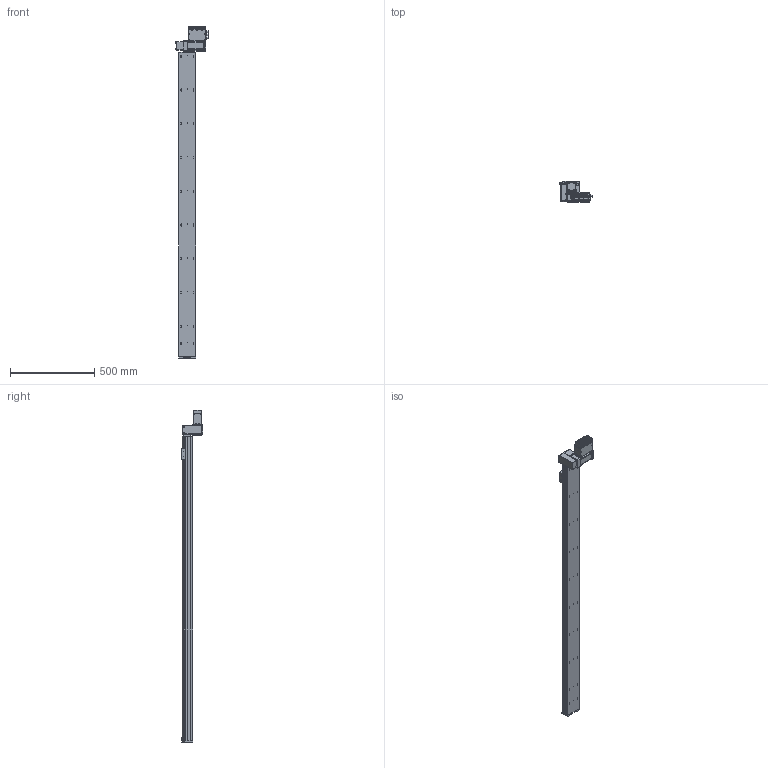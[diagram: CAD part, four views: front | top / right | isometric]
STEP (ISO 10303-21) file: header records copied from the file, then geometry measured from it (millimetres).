
FILE_DESCRIPTION (( 'STEP AP203' ), '1' );
FILE_NAME ('S10 TBN RH S1900.STEP', '2012-06-14T08:54:04', ( 'Conseil Régional Haute-Normandie' ), ( 'Conseil Régional Haute-Normandie' ), 'SwSTEP 2.0', 'SolidWorks 2010', '' );
FILE_SCHEMA (( 'CONFIG_CONTROL_DESIGN' ));
Products named in the file (30): renvoi LH_Default; Plaque racord_Default; Colonnette_3; BU45 Carte d''axe A11_5; Connecteur rond D12 4cts_5; Sub D 9cts 90_X2_00B_X0__3; Radiateur profil_X2_00E9_X0_ 100x25_3; vis M5 L12_Default; Cvis M5 L30_Default; axe 1800; S10 TBN RH S1900; embout; palette tbn; cache t皻e axe_Default; plaque de bout s10_Default; cache t皻e_Default; Assem1_7; T_X2_00F4_X0_le contre le moteur_5; BU41 Carte Alimentation P05_3; Moteur 60BLDC90A_3; Couvercle_3; T_X2_00F4_X0_le fond_3; Connecteur rond D10 3cts_5; Colonnette ronde_3; T_X2_00F4_X0_le Arri_X2_00E8_X0_re_5; T_X2_00F4_X0_le lat_X2_00E9_X0_rale_5; Vis TF 3 torkx_1_1; Vis M5 L16-2_Default_1; Vis TF 3 torkx; vis M5 L5_Default
Assembly tree (69 placements, depth 3):
  S10 TBN RH S1900
    palette tbn
    vis M5 L12_Default  x4
    Vis TF 3 torkx  x7
    Assem1_7
      Vis TF 3 torkx_1_1  x21
      BU41 Carte Alimentation P05_3
      Connecteur rond D10 3cts_5  x2
      T_X2_00F4_X0_le lat_X2_00E9_X0_rale_5  x2
      Connecteur rond D12 4cts_5
      Radiateur profil_X2_00E9_X0_ 100x25_3
      Couvercle_3
      T_X2_00F4_X0_le contre le moteur_5
      Moteur 60BLDC90A_3
      Colonnette_3  x2
      T_X2_00F4_X0_le fond_3
      T_X2_00F4_X0_le Arri_X2_00E8_X0_re_5
      Colonnette ronde_3
      BU45 Carte d''axe A11_5
      Sub D 9cts 90_X2_00B_X0__3
    vis M5 L5_Default  x4
    cache t皻e axe_Default
    cache t皻e_Default  x2
    Vis M5 L16-2_Default_1  x4
    axe 1800
    Cvis M5 L30_Default  x2
    embout
    plaque de bout s10_Default
    renvoi LH_Default
    Plaque racord_Default
Bounding box: 189.8 x 124.75 x 1966.74 mm (x, y, z)
Volume: 10147900.6 mm3; surface area: 1159955.1 mm2
Topology: 68 solids, 68 shells, 2528 faces, 6274 edges, 4058 vertices
Faces by surface type: plane 1214, cylinder 1083, cone 188, bspline 40, torus 3
Entity records: 49704 total; most frequent: CARTESIAN_POINT 8905, DIRECTION 8023, ORIENTED_EDGE 7268, EDGE_CURVE 3634, AXIS2_PLACEMENT_3D 2987, VERTEX_POINT 2374, VECTOR 2049, LINE 2049
